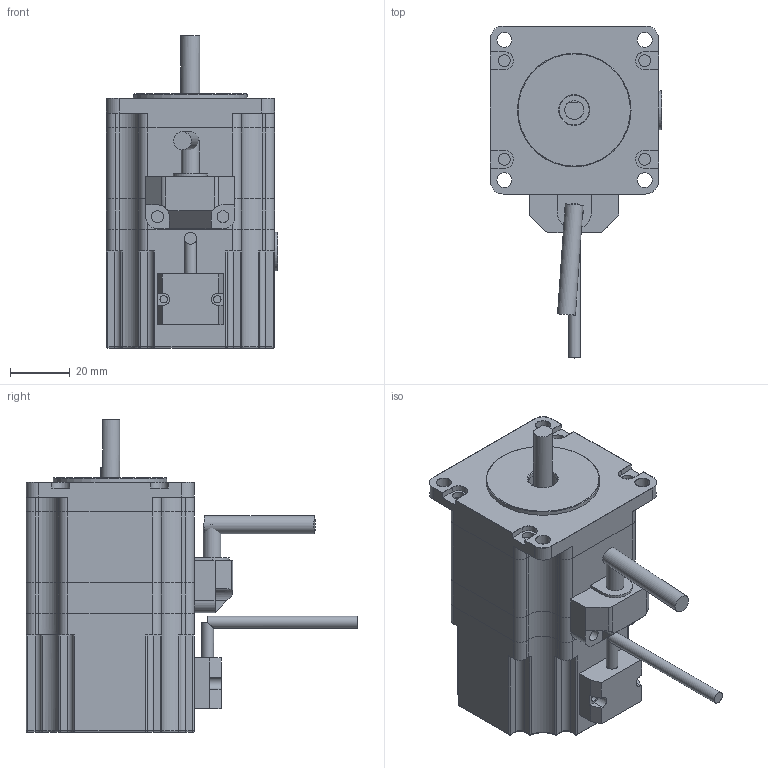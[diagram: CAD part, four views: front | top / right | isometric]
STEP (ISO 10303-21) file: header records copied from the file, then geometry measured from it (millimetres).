
FILE_DESCRIPTION(/* description */ (''),/* implementation_level */ '2;1');
FILE_NAME(/* name */ 'MP3-57HZ044.step',/* time_stamp */ '2022-05-24T10:41:39+08:00',/* author */ (''),/* organization */ (''),/* preprocessor_version */ 'ST-DEVELOPER v16',/* originating_system */ 'SIEMENS PLM Software NX 10.0',/* authorisation */ '');
FILE_SCHEMA (('AUTOMOTIVE_DESIGN { 1 0 10303 214 3 1 1 1 }'));
Length unit declared in the file: millimetre
Products named in the file (1): MP3-57HZ044
Bounding box: 57.4 x 111.34 x 105 mm (x, y, z)
Volume: 236260.8 mm3; surface area: 55884 mm2
Topology: 12 solids, 12 shells, 363 faces, 926 edges, 585 vertices
Faces by surface type: plane 175, cylinder 158, sphere 16, torus 12, cone 2
Full cylindrical faces by diameter (mm): 2.5 x2, 3.3 x8, 4 x8, 5 x8, 6 x6, 6.35 x1, 8 x1, 10 x4, 13 x1, 38.1 x1
Entity records: 10770 total; most frequent: DIRECTION 1936, CARTESIAN_POINT 1819, ORIENTED_EDGE 1720, EDGE_CURVE 860, AXIS2_PLACEMENT_3D 714, VERTEX_POINT 577, LINE 508, VECTOR 508
